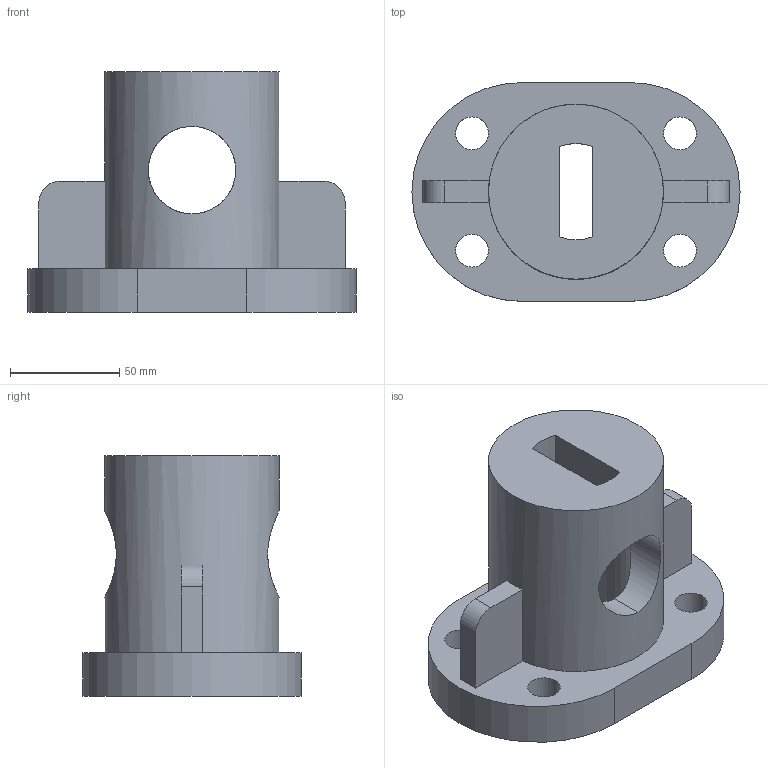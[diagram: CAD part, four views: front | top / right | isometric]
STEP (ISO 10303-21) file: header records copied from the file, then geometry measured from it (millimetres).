
FILE_DESCRIPTION(('TFLEX Exchange Step'),'2;1');
FILE_NAME('X2\041A043E0440043F04430441\X0\ вар 11.stp', '2025-06-24T11:15:53+03:00',('alymo'),('Unknown organisation'),'TFLEX Exchange 2023.0','T-FLEX CAD','Unknown authorisation');
FILE_SCHEMA( ('AUTOMOTIVE_DESIGN { 1 0 10303 214 1 1 1 1 }') );
Length unit declared in the file: millimetre
Products named in the file (1): Nodes
Bounding box: 150 x 100 x 110 mm (x, y, z)
Volume: 489354.2 mm3; surface area: 77649.9 mm2
Topology: 1 solids, 1 shells, 33 faces, 97 edges, 68 vertices
Faces by surface type: cylinder 17, plane 16
Full cylindrical faces by diameter (mm): 15 x4, 50 x1, 80 x1
Entity records: 2859 total; most frequent: CARTESIAN_POINT 1891, DIRECTION 197, ORIENTED_EDGE 194, EDGE_CURVE 97, AXIS2_PLACEMENT_3D 74, VERTEX_POINT 68, VECTOR 49, LINE 49
